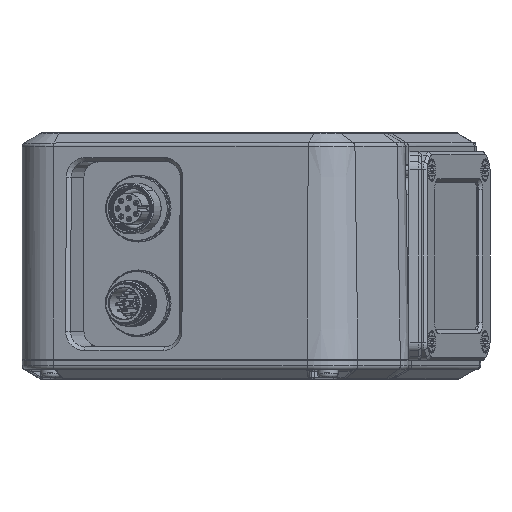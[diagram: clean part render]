
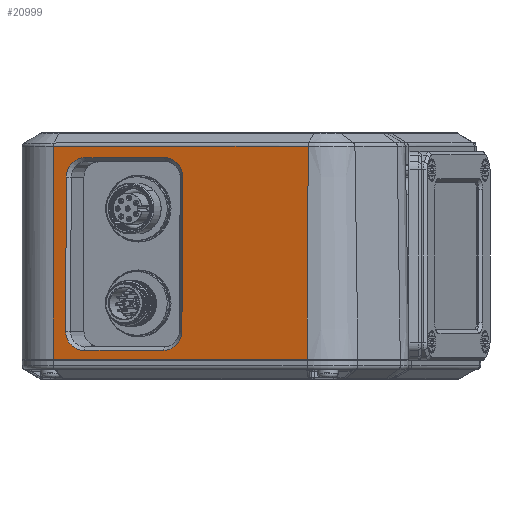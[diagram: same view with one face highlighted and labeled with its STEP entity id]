
A CAD part, front view. The second image highlights one B-rep face of the part: STEP entity #20999.
In plain terms, the highlighted planar face has unit normal (-0.309, -0.951, 0.018).
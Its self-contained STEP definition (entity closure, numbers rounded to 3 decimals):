
#3804=CARTESIAN_POINT('',(-76.508,-22.111,-27.2));
#3810=DIRECTION('',(0.951,-0.309,0.));
#3811=VECTOR('',#3810,70.287);
#3812=CARTESIAN_POINT('',(-76.508,-22.111,-27.2));
#3813=LINE('',#3812,#3811);
#6156=CARTESIAN_POINT('',(-68.477,-24.678,
-24.908));
#6157=CARTESIAN_POINT('',(-68.903,-24.54,
-24.908));
#6158=CARTESIAN_POINT('',(-69.755,-24.261,
-24.79));
#6159=CARTESIAN_POINT('',(-70.953,-23.862,
-24.264));
#6160=CARTESIAN_POINT('',(-71.969,-23.517,
-23.435));
#6161=CARTESIAN_POINT('',(-72.756,-23.241,
-22.338));
#6162=CARTESIAN_POINT('',(-73.23,-23.063,
-21.07));
#6163=CARTESIAN_POINT('',(-73.326,-23.016,
-20.214));
#6164=CARTESIAN_POINT('',(-73.324,-23.009,
-19.782));
#6166=DIRECTION('',(-0.951,0.309,0.));
#6167=VECTOR('',#6166,22.);
#6168=CARTESIAN_POINT('',(-47.554,-31.476,
-24.908));
#6169=LINE('',#6168,#6167);
#6170=CARTESIAN_POINT('',(-42.653,-32.975,
-19.782));
#6171=CARTESIAN_POINT('',(-42.655,-32.982,
-20.225));
#6172=CARTESIAN_POINT('',(-42.767,-32.962,
-21.108));
#6173=CARTESIAN_POINT('',(-43.274,-32.821,
-22.382));
#6174=CARTESIAN_POINT('',(-44.064,-32.584,
-23.452));
#6175=CARTESIAN_POINT('',(-45.102,-32.262,
-24.284));
#6176=CARTESIAN_POINT('',(-46.316,-31.877,
-24.799));
#6177=CARTESIAN_POINT('',(-47.14,-31.611,
-24.908));
#6178=CARTESIAN_POINT('',(-47.554,-31.476,
-24.908));
#6180=DIRECTION('',(-0.005,-0.017,-1.));
#6181=VECTOR('',#6180,40.606);
#6182=CARTESIAN_POINT('',(-42.44,-32.299,
20.818));
#6183=LINE('',#6182,#6181);
#6184=CARTESIAN_POINT('',(-47.28,-30.632,
25.936));
#6185=CARTESIAN_POINT('',(-46.855,-30.77,
25.936));
#6186=CARTESIAN_POINT('',(-46.005,-31.049,
25.819));
#6187=CARTESIAN_POINT('',(-44.808,-31.447,
25.293));
#6188=CARTESIAN_POINT('',(-43.793,-31.792,
24.466));
#6189=CARTESIAN_POINT('',(-43.007,-32.068,
23.37));
#6190=CARTESIAN_POINT('',(-42.533,-32.245,
22.104));
#6191=CARTESIAN_POINT('',(-42.437,-32.292,
21.249));
#6192=CARTESIAN_POINT('',(-42.44,-32.299,
20.818));
#6194=DIRECTION('',(0.951,-0.309,0.));
#6195=VECTOR('',#6194,22.);
#6196=CARTESIAN_POINT('',(-68.203,-23.834,
25.936));
#6197=LINE('',#6196,#6195);
#6198=CARTESIAN_POINT('',(-73.099,-22.337,
20.818));
#6199=CARTESIAN_POINT('',(-73.096,-22.33,
21.265));
#6200=CARTESIAN_POINT('',(-72.98,-22.351,
22.16));
#6201=CARTESIAN_POINT('',(-72.473,-22.493,
23.421));
#6202=CARTESIAN_POINT('',(-71.68,-22.731,
24.492));
#6203=CARTESIAN_POINT('',(-70.634,-23.056,
25.325));
#6204=CARTESIAN_POINT('',(-69.427,-23.438,
25.83));
#6205=CARTESIAN_POINT('',(-68.613,-23.701,
25.936));
#6206=CARTESIAN_POINT('',(-68.203,-23.834,
25.936));
#6208=DIRECTION('',(0.006,0.017,1.));
#6209=VECTOR('',#6208,40.606);
#6210=CARTESIAN_POINT('',(-73.324,-23.009,
-19.782));
#6211=LINE('',#6210,#6209);
#6212=DIRECTION('',(-0.951,0.309,0.));
#6213=VECTOR('',#6212,70.606);
#6214=CARTESIAN_POINT('',(-9.358,-42.899,
28.943));
#6215=LINE('',#6214,#6213);
#6216=DIRECTION('',(-0.005,-0.017,-1.));
#6217=VECTOR('',#6216,56.151);
#6218=CARTESIAN_POINT('',(-9.358,-42.899,
28.943));
#6219=LINE('',#6218,#6217);
#6220=DIRECTION('',(0.,0.018,1.));
#6221=VECTOR('',#6220,56.152);
#6222=CARTESIAN_POINT('',(-76.508,-22.111,-27.2));
#6223=LINE('',#6222,#6221);
#9186=CARTESIAN_POINT('',(-9.661,-43.831,-27.2));
#9187=VERTEX_POINT('',#9186);
#9222=VERTEX_POINT('',#6156);
#9223=VERTEX_POINT('',#6164);
#9226=CARTESIAN_POINT('',(-73.099,-22.337,
20.818));
#9227=VERTEX_POINT('',#9226);
#9230=VERTEX_POINT('',#6206);
#9232=CARTESIAN_POINT('',(-47.28,-30.632,
25.936));
#9233=VERTEX_POINT('',#9232);
#9236=VERTEX_POINT('',#6192);
#9238=CARTESIAN_POINT('',(-42.653,-32.975,
-19.782));
#9239=VERTEX_POINT('',#9238);
#9242=VERTEX_POINT('',#6178);
#9246=VERTEX_POINT('',#3804);
#9453=CARTESIAN_POINT('',(-9.358,-42.899,
28.943));
#9454=VERTEX_POINT('',#9453);
#9455=CARTESIAN_POINT('',(-76.508,-21.081,
28.943));
#9456=VERTEX_POINT('',#9455);
#20970=CARTESIAN_POINT('',(-97.348,-15.345,-27.5));
#20971=DIRECTION('',(-0.309,-0.951,0.017));
#20972=DIRECTION('',(-0.951,0.309,0.));
#20973=AXIS2_PLACEMENT_3D('',#20970,#20971,#20972);
#20974=PLANE('',#20973);
#20975=ORIENTED_EDGE('',*,*,#16682,.F.);
#20976=ORIENTED_EDGE('',*,*,#20965,.T.);
#20977=ORIENTED_EDGE('',*,*,#16196,.F.);
#20978=ORIENTED_EDGE('',*,*,#16522,.T.);
#20979=EDGE_LOOP('',(#20975,#20976,#20977,#20978));
#20980=FACE_OUTER_BOUND('',#20979,.F.);
#20982=ORIENTED_EDGE('',*,*,#20981,.F.);
#20984=ORIENTED_EDGE('',*,*,#20983,.F.);
#20986=ORIENTED_EDGE('',*,*,#20985,.F.);
#20988=ORIENTED_EDGE('',*,*,#20987,.F.);
#20990=ORIENTED_EDGE('',*,*,#20989,.F.);
#20992=ORIENTED_EDGE('',*,*,#20991,.F.);
#20994=ORIENTED_EDGE('',*,*,#20993,.F.);
#20996=ORIENTED_EDGE('',*,*,#20995,.F.);
#20997=EDGE_LOOP('',(#20982,#20984,#20986,#20988,#20990,#20992,#20994,#20996));
#20998=FACE_BOUND('',#20997,.F.);
#20999=ADVANCED_FACE('',(#20980,#20998),#20974,.T.);
#6165=B_SPLINE_CURVE_WITH_KNOTS('',3,(#6156,#6157,#6158,#6159,#6160,#6161,#6162,
#6163,#6164),.UNSPECIFIED.,.F.,.F.,(4,1,1,1,1,1,4),(0.,0.167,
0.333,0.5,0.667,0.833,1.),
.UNSPECIFIED.);
#6179=B_SPLINE_CURVE_WITH_KNOTS('',3,(#6170,#6171,#6172,#6173,#6174,#6175,#6176,
#6177,#6178),.UNSPECIFIED.,.F.,.F.,(4,1,1,1,1,1,4),(0.,0.167,
0.333,0.5,0.667,0.833,1.),
.UNSPECIFIED.);
#6193=B_SPLINE_CURVE_WITH_KNOTS('',3,(#6184,#6185,#6186,#6187,#6188,#6189,#6190,
#6191,#6192),.UNSPECIFIED.,.F.,.F.,(4,1,1,1,1,1,4),(0.,0.167,
0.333,0.5,0.667,0.833,1.),
.UNSPECIFIED.);
#6207=B_SPLINE_CURVE_WITH_KNOTS('',3,(#6198,#6199,#6200,#6201,#6202,#6203,#6204,
#6205,#6206),.UNSPECIFIED.,.F.,.F.,(4,1,1,1,1,1,4),(0.,0.167,
0.333,0.5,0.667,0.833,1.),
.UNSPECIFIED.);
#16196=EDGE_CURVE('',#9246,#9187,#3813,.T.);
#16522=EDGE_CURVE('',#9246,#9456,#6223,.T.);
#16682=EDGE_CURVE('',#9454,#9456,#6215,.T.);
#20965=EDGE_CURVE('',#9454,#9187,#6219,.T.);
#20981=EDGE_CURVE('',#9222,#9223,#6165,.T.);
#20983=EDGE_CURVE('',#9242,#9222,#6169,.T.);
#20985=EDGE_CURVE('',#9239,#9242,#6179,.T.);
#20987=EDGE_CURVE('',#9236,#9239,#6183,.T.);
#20989=EDGE_CURVE('',#9233,#9236,#6193,.T.);
#20991=EDGE_CURVE('',#9230,#9233,#6197,.T.);
#20993=EDGE_CURVE('',#9227,#9230,#6207,.T.);
#20995=EDGE_CURVE('',#9223,#9227,#6211,.T.);
